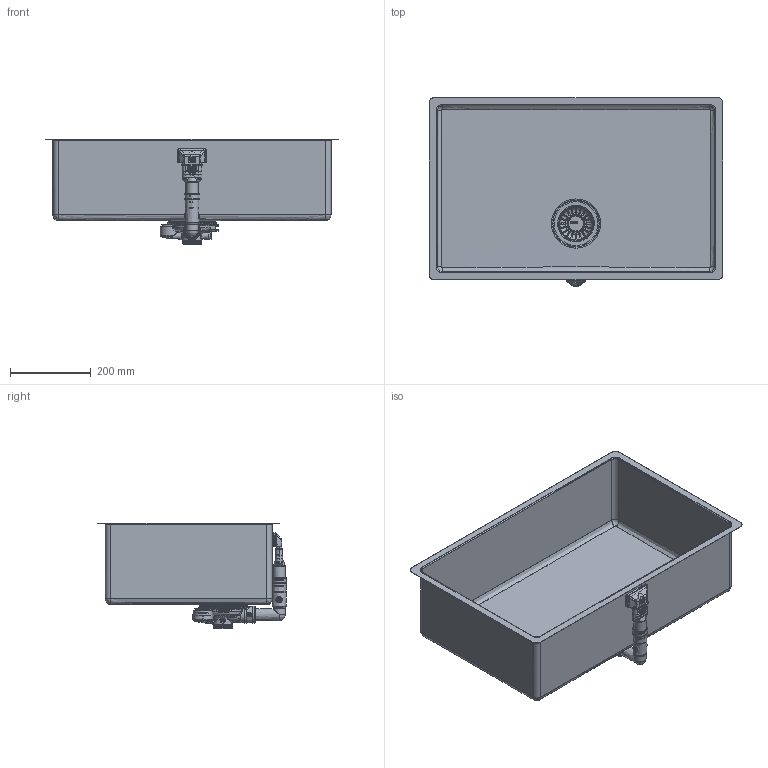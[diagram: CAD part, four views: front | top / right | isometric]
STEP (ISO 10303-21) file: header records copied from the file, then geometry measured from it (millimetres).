
FILE_DESCRIPTION(('STEP AP214'),'1');
FILE_NAME('J:/2016/CLX/FRANKE/materiale ricevuto/Sinks/Sinks/Franke Box/Requested/210_110_68/BXX 210_110-68.stp','2016-04-08T11:29:18',(' '),(' '),'Spatial InterOp 3D',' ',' ');
FILE_SCHEMA(('automotive_design'));
Length unit declared in the file: millimetre
Products named in the file (6):       58
Bounding box: 725 x 466.5 x 259.81 mm (x, y, z)
Volume: 929617.3 mm3; surface area: 1670811.3 mm2
Topology: 6 solids, 6 shells, 5409 faces, 15021 edges, 9834 vertices
Faces by surface type: bspline 5409
Entity records: 227342 total; most frequent: CARTESIAN_POINT 138363, ORIENTED_EDGE 29526, EDGE_CURVE 14763, B_SPLINE_CURVE_WITH_KNOTS 13091, VERTEX_POINT 9828, EDGE_LOOP 5987, FACE_OUTER_BOUND 5593, ADVANCED_FACE 5409
